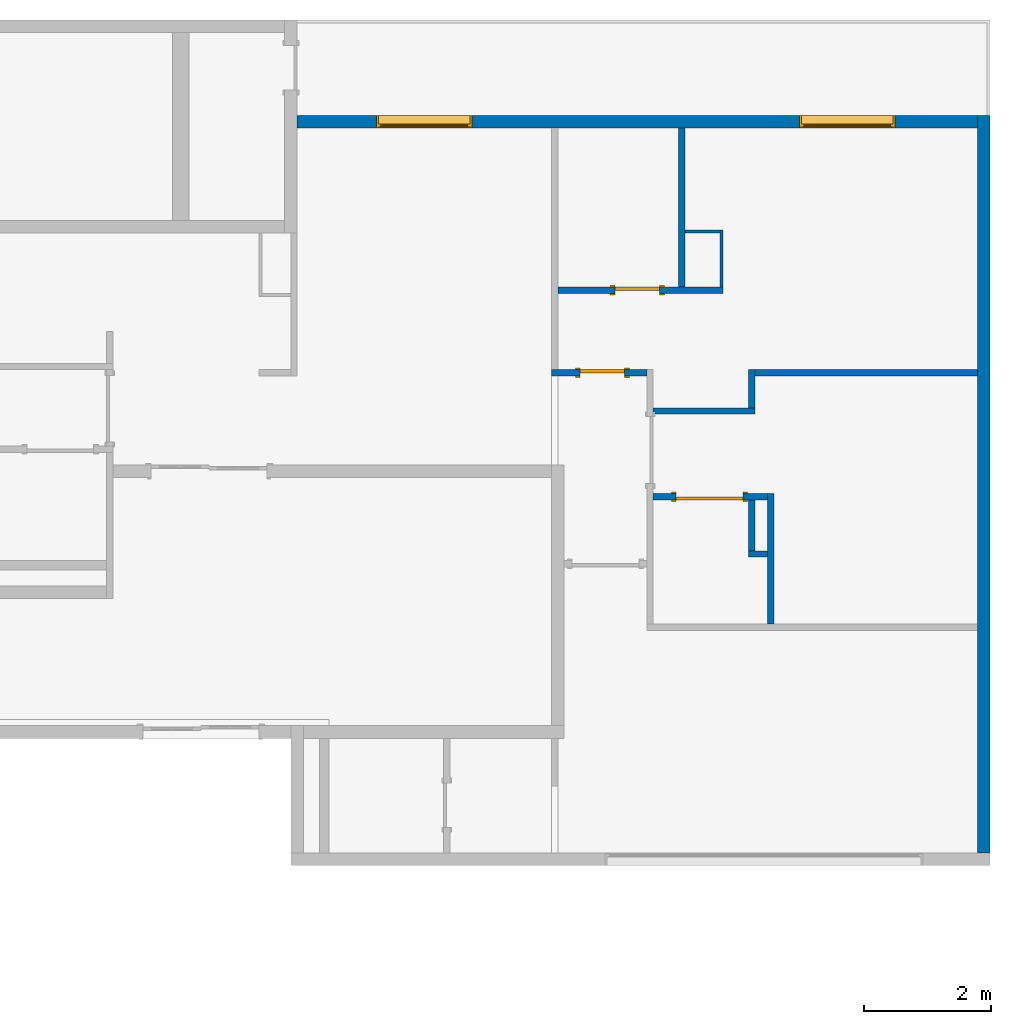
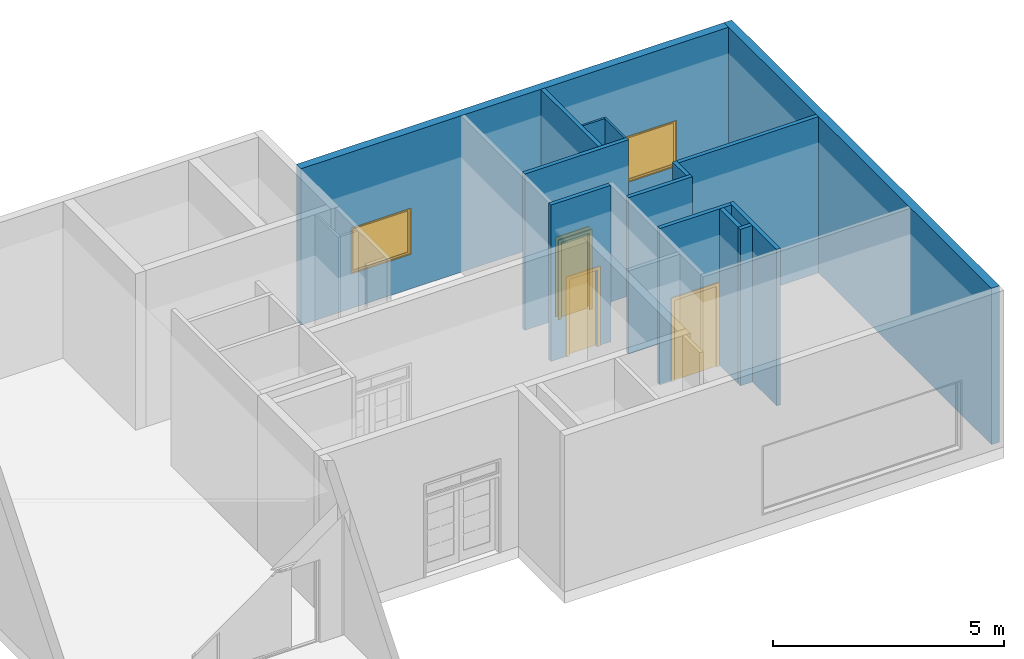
# One storey, part 6 of 8: 14 walls, 3 doors, 2 windows, 5 openings.
"""IFC2X3 building model written with IfcOpenShell, lengths in metres."""

from ifc_helpers import new_model, entity, si_unit, converted_unit, derived_unit, direction, frame, frame_2d, origin, origin_2d_with_axis, place, context, subcontext, project, spatial, polyline, rectangle, outline, extrude, clip, bounded_halfspace, source, transform, mapped, material, material_list, layer, layer_set, layer_usage, type_object, type_shapes, element, fill, save


model = new_model("IFC2X3")

# Units and contexts
model_context = context("Model", 3, precision=1e-05, world=origin(), true_north=direction((6.123031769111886e-17, 1.0)))
body_context = subcontext(model_context, "Body", "Model", "MODEL_VIEW")
ifc_project = project(units=[si_unit("LENGTHUNIT", "METRE"), si_unit("AREAUNIT", "SQUARE_METRE"), si_unit("VOLUMEUNIT", "CUBIC_METRE"), converted_unit("PLANEANGLEUNIT", "DEGREE", entity("IfcRatioMeasure", 0.017453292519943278), si_unit("PLANEANGLEUNIT", "RADIAN"), dimensions=[0, 0, 0, 0, 0, 0, 0]), si_unit("MASSUNIT", "GRAM", prefix="KILO"), derived_unit("MASSDENSITYUNIT", [(si_unit("MASSUNIT", "GRAM", prefix="KILO"), 1), (si_unit("LENGTHUNIT", "METRE"), -3)]), derived_unit("MOMENTOFINERTIAUNIT", [(si_unit("LENGTHUNIT", "METRE"), 4)]), si_unit("TIMEUNIT", "SECOND"), si_unit("FREQUENCYUNIT", "HERTZ"), si_unit("THERMODYNAMICTEMPERATUREUNIT", "DEGREE_CELSIUS"), derived_unit("THERMALTRANSMITTANCEUNIT", [(si_unit("MASSUNIT", "GRAM", prefix="KILO"), 1), (si_unit("THERMODYNAMICTEMPERATUREUNIT", "KELVIN"), -1), (si_unit("TIMEUNIT", "SECOND"), -3)]), derived_unit("VOLUMETRICFLOWRATEUNIT", [(si_unit("LENGTHUNIT", "METRE"), 3), (si_unit("TIMEUNIT", "SECOND"), -1)]), derived_unit("MASSFLOWRATEUNIT", [(si_unit("MASSUNIT", "GRAM", prefix="KILO"), 1), (si_unit("TIMEUNIT", "SECOND"), -1)]), derived_unit("ROTATIONALFREQUENCYUNIT", [(si_unit("TIMEUNIT", "SECOND"), -1)]), si_unit("ELECTRICCURRENTUNIT", "AMPERE"), si_unit("ELECTRICVOLTAGEUNIT", "VOLT"), si_unit("POWERUNIT", "WATT"), si_unit("FORCEUNIT", "NEWTON", prefix="KILO"), si_unit("ILLUMINANCEUNIT", "LUX"), si_unit("LUMINOUSFLUXUNIT", "LUMEN"), si_unit("LUMINOUSINTENSITYUNIT", "CANDELA"), derived_unit("USERDEFINED", [(si_unit("MASSUNIT", "GRAM", prefix="KILO"), -1), (si_unit("LENGTHUNIT", "METRE"), -2), (si_unit("TIMEUNIT", "SECOND"), 3), (si_unit("LUMINOUSFLUXUNIT", "LUMEN"), 1)]), derived_unit("SOUNDPOWERUNIT", [(si_unit("MASSUNIT", "GRAM", prefix="KILO"), 1), (si_unit("LENGTHUNIT", "METRE"), 2), (si_unit("TIMEUNIT", "SECOND"), -3)]), derived_unit("SOUNDPRESSUREUNIT", [(si_unit("MASSUNIT", "GRAM", prefix="KILO"), 1), (si_unit("LENGTHUNIT", "METRE"), -1), (si_unit("TIMEUNIT", "SECOND"), -2)]), derived_unit("LINEARVELOCITYUNIT", [(si_unit("LENGTHUNIT", "METRE"), 1), (si_unit("TIMEUNIT", "SECOND"), -1)]), si_unit("PRESSUREUNIT", "PASCAL"), derived_unit("USERDEFINED", [(si_unit("LENGTHUNIT", "METRE"), -2), (si_unit("MASSUNIT", "GRAM", prefix="KILO"), 1), (si_unit("TIMEUNIT", "SECOND"), -2)]), derived_unit("LINEARFORCEUNIT", [(si_unit("MASSUNIT", "GRAM", prefix="KILO"), 1), (si_unit("LENGTHUNIT", "METRE"), 1), (si_unit("TIMEUNIT", "SECOND"), -2), (si_unit("LENGTHUNIT", "METRE"), -1)]), derived_unit("PLANARFORCEUNIT", [(si_unit("MASSUNIT", "GRAM", prefix="KILO"), 1), (si_unit("LENGTHUNIT", "METRE"), 1), (si_unit("TIMEUNIT", "SECOND"), -2), (si_unit("LENGTHUNIT", "METRE"), -2)])], contexts=[model_context])

# Site, building, storey
site_placement = place(None, origin())
site = spatial("IfcSite", under=ifc_project, at=site_placement, Name="Default", CompositionType="ELEMENT")
building_placement = place(site_placement, origin())
building = spatial("IfcBuilding", under=site, at=building_placement, CompositionType="ELEMENT")
storey_placement = place(building_placement, frame((0.0, 0.0, 1.1999999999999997)))
storey = spatial("IfcBuildingStorey", under=building, at=storey_placement, Name="G0", CompositionType="ELEMENT", Elevation=1.1999999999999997)

# Wall
ifc_material_1 = material(Name="Masonry - Concrete Block")
ifc_layer_1 = layer(ifc_material_1, 0.2)
ifc_layer_set_1 = layer_set([ifc_layer_1], Name="Basic Wall:CW 200")
ifc_layer_usage_1 = layer_usage(ifc_layer_set_1, "AXIS2", "NEGATIVE", 0.1)
wall_type_1 = type_object("IfcWallType", Name="Basic Wall:CW 200", PredefinedType="STANDARD", material=ifc_layer_set_1)
wall_1_placement = place(storey_placement, frame((28.807683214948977, -7.102309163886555, 0.0), z_axis=(0.0, 0.0, 1.0), x_axis=(0.0, 1.0, 0.0)))
element("IfcWallStandardCase", 1, at=wall_1_placement, inside=storey, type_object=wall_type_1, material=ifc_layer_usage_1, Name="Basic Wall:CW 200", ObjectType="Basic Wall:CW 200", context=body_context, shape_type="Clipping", body=[
    clip(extrude(rectangle(XDim=11.599999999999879, YDim=0.19999999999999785, at=frame_2d((5.799999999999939, -1.457167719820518e-16), x_axis=(-1.0, 0.0))), origin(), (0.0, 0.0, 1.0), 4.139999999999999), bounded_halfspace(frame((0.0, -0.10000000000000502, 4.139999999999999), z_axis=(0.0, 0.0, -1.0), x_axis=(1.0, 0.0, 0.0)), True, frame((0.0, -0.10000000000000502, 4.139999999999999)), polyline([(0.0, 0.0), (0.0014984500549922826, 0.0), (0.0014984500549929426, 0.060960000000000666), (0.0, 0.060960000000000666), (0.0, 0.0)]))),
])

# Wall, openings, windows
ifc_layer_usage_2 = layer_usage(ifc_layer_set_1, "AXIS2", "NEGATIVE", 0.1)
wall_2_placement = place(storey_placement, frame((28.707683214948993, 4.397690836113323, 0.0), z_axis=(0.0, 0.0, 1.0), x_axis=(-1.0, 0.0, 0.0)))
wall_2 = element("IfcWallStandardCase", 2, at=wall_2_placement, inside=storey, type_object=wall_type_1, material=ifc_layer_usage_2, Name="Basic Wall:CW 200", ObjectType="Basic Wall:CW 200", context=body_context, shape_type="SweptSolid", body=[
    extrude(rectangle(XDim=10.699999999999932, YDim=0.2, at=frame_2d((5.349999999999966, -3.191891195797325e-16), x_axis=(-1.0, 0.0))), origin(), (0.0, 0.0, 1.0), 4.139999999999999),
])
opening_1_placement = place(wall_2_placement, frame((7.949999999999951, -0.10000000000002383, 0.9150000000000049)))
opening_1 = element("IfcOpeningElement", 3, at=opening_1_placement, cuts=wall_2, Name="M_Fixed:0915 x 1220mm:1", ObjectType="Opening", context=body_context, shape_type="SweptSolid", body=[
    extrude(rectangle(XDim=1.2199999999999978, YDim=1.4999999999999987, at=frame_2d((0.6099999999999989, 0.7499999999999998), x_axis=(1.0, 0.0))), frame((0.0, 0.0, 0.0), z_axis=(0.0, 1.0, 0.0), x_axis=(0.0, 0.0, 1.0)), (0.0, 0.0, 1.0), 0.2),
])
opening_2_placement = place(wall_2_placement, frame((1.3000000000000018, -0.10000000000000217, 0.9150000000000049)))
opening_2 = element("IfcOpeningElement", 4, at=opening_2_placement, cuts=wall_2, Name="M_Fixed:0915 x 1220mm:1", ObjectType="Opening", context=body_context, shape_type="SweptSolid", body=[
    extrude(rectangle(XDim=1.2199999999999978, YDim=1.4999999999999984, at=frame_2d((0.6099999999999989, 0.7499999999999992), x_axis=(1.0, 0.0))), frame((0.0, 0.0, 0.0), z_axis=(0.0, 1.0, 0.0), x_axis=(0.0, 0.0, 1.0)), (0.0, 0.0, 1.0), 0.2),
])
ifc_material_2 = material(Name="Glass")
ifc_material_3 = material(Name="Sash")
ifc_material_list_1 = material_list([ifc_material_2, ifc_material_3])
ifc_material_list_2 = material_list([ifc_material_2, ifc_material_3, ifc_material_3, ifc_material_3])
window_style = type_object("IfcWindowStyle", Name="M_Fixed:0915 x 1220mm", ConstructionType="NOTDEFINED", OperationType="NOTDEFINED", ParameterTakesPrecedence=False, Sizeable=False, material=ifc_material_list_2)
shared_shape_1 = source(origin(), body_context, "Body", "SweptSolid", [
    extrude(rectangle(XDim=0.011999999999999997, YDim=1.3739999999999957, at=frame_2d((8.239936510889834e-18, 0.0), x_axis=(1.0, 0.0))), frame((0.7500000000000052, 0.15899999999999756, 0.06299999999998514), z_axis=(0.0, 0.0, 1.0), x_axis=(0.0, -1.0, 0.0)), (0.0, 0.0, 1.0), 1.0940000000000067),
    extrude(outline(polyline([(-0.7309999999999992, -0.5910000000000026), (0.7309999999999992, -0.5910000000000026), (0.7309999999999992, 0.5910000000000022), (-0.7309999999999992, 0.5910000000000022), (-0.7309999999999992, -0.5910000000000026)]), holes=[polyline([(-0.686999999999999, -0.5470000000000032), (-0.686999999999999, 0.5470000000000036), (0.6869999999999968, 0.5470000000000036), (0.6869999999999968, -0.5470000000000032), (-0.686999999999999, -0.5470000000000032)])]), frame((0.7500000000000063, 0.13699999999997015, 0.6099999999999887), z_axis=(0.0, 1.0, 0.0), x_axis=(1.0, 0.0, 0.0)), (0.0, 0.0, 1.0), 0.04400000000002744),
    extrude(outline(polyline([(-0.749999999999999, -0.609999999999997), (0.749999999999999, -0.609999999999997), (0.749999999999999, 0.609999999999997), (-0.749999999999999, 0.609999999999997), (-0.749999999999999, -0.609999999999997)]), holes=[polyline([(-0.7310000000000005, -0.5909999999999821), (-0.7310000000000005, 0.5910000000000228), (0.7309999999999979, 0.5910000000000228), (0.7309999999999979, -0.5909999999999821), (-0.7310000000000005, -0.5909999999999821)])]), frame((0.7500000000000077, 0.13699999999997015, 0.6100000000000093), z_axis=(0.0, 1.0, 0.0), x_axis=(1.0, 0.0, 0.0)), (0.0, 0.0, 1.0), 0.06300000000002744),
    extrude(outline(polyline([(-0.7499999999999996, -0.6099999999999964), (0.7499999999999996, -0.6099999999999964), (0.7499999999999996, 0.6099999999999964), (-0.7499999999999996, 0.6099999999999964), (-0.7499999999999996, -0.6099999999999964)]), holes=[polyline([(-0.7179999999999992, -0.5779999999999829), (-0.7179999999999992, 0.5780000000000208), (0.7179999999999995, 0.5780000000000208), (0.7179999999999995, -0.5779999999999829), (-0.7179999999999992, -0.5779999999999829)])]), frame((0.750000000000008, 0.0, 0.6100000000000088), z_axis=(0.0, 1.0, 0.0), x_axis=(1.0, 0.0, 0.0)), (0.0, 0.0, 1.0), 0.1369999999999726),
])
type_shapes(window_style, [shared_shape_1])
window_1_placement = place(opening_1_placement, origin())
window_1 = element("IfcWindow", 5, at=window_1_placement, inside=storey, type_object=window_style, material=ifc_material_list_1, Name="M_Fixed:0915 x 1220mm", ObjectType="M_Fixed:0915 x 1220mm", OverallHeight=1.2199999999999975, OverallWidth=1.500000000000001, context=body_context, shape_type="MappedRepresentation", body=[
    mapped(shared_shape_1, transform((0.0, 0.0, 0.0), scale=1.0)),
])
fill(opening_1, window_1)
ifc_material_list_3 = material_list([ifc_material_2, ifc_material_3])
window_2_placement = place(opening_2_placement, origin())
window_2 = element("IfcWindow", 6, at=window_2_placement, inside=storey, type_object=window_style, material=ifc_material_list_3, Name="M_Fixed:0915 x 1220mm", ObjectType="M_Fixed:0915 x 1220mm", OverallHeight=1.2199999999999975, OverallWidth=1.499999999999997, context=body_context, shape_type="MappedRepresentation", body=[
    mapped(shared_shape_1, transform((0.0, 0.0, 0.0), scale=1.0)),
])
fill(opening_2, window_2)

# Wall, opening, door
ifc_layer_2 = layer(ifc_material_1, 0.1)
ifc_layer_set_2 = layer_set([ifc_layer_2], Name="Basic Wall:CW 100")
ifc_layer_usage_3 = layer_usage(ifc_layer_set_2, "AXIS2", "NEGATIVE", 0.05)
wall_type_2 = type_object("IfcWallType", Name="Basic Wall:CW 100", PredefinedType="STANDARD", material=ifc_layer_set_2)
wall_3_placement = place(storey_placement, frame((23.507683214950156, 0.4476908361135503, 0.0), z_axis=(0.0, 0.0, 1.0), x_axis=(-1.0, 0.0, 0.0)))
wall_3 = element("IfcWallStandardCase", 7, at=wall_3_placement, inside=storey, type_object=wall_type_2, material=ifc_layer_usage_3, Name="Basic Wall:CW 100", ObjectType="Basic Wall:CW 100", context=body_context, shape_type="SweptSolid", body=[
    extrude(rectangle(XDim=1.5000000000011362, YDim=0.09999999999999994, at=frame_2d((0.750000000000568, 6.938893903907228e-17), x_axis=(1.0, 0.0))), origin(), (0.0, 0.0, 1.0), 4.139999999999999),
])
opening_3_placement = place(wall_3_placement, frame((1.0500000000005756, 0.04999999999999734, 0.0)))
opening_3 = element("IfcOpeningElement", 8, at=opening_3_placement, cuts=wall_3, Name="M_Single-Flush:0762 x 2032mm:1", ObjectType="Opening", context=body_context, shape_type="SweptSolid", body=[
    extrude(rectangle(XDim=0.6999999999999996, YDim=2.0319999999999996, at=frame_2d((1.0160000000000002, 0.3499999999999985), x_axis=(0.0, 1.0))), frame((0.0, 0.0, 0.0), z_axis=(0.0, -1.0, 0.0), x_axis=(0.0, 0.0, 1.0)), (0.0, 0.0, 1.0), 0.1),
])
ifc_material_4 = material(Name="Door - Frame")
ifc_material_5 = material(Name="Door - Panel")
ifc_material_list_4 = material_list([ifc_material_4, ifc_material_5])
ifc_material_list_5 = material_list([ifc_material_4, ifc_material_4, ifc_material_5])
door_style_1 = type_object("IfcDoorStyle", Name="M_Single-Flush:0762 x 2032mm", ConstructionType="NOTDEFINED", OperationType="NOTDEFINED", ParameterTakesPrecedence=False, Sizeable=False, material=ifc_material_list_5)
shared_shape_2 = source(origin(), body_context, "Body", "SweptSolid", [
    extrude(outline(polyline([(-0.426, -1.0729999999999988), (0.4259999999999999, -1.0729999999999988), (0.4259999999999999, 1.0350000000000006), (0.3499999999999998, 1.0350000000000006), (0.3499999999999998, -0.9970000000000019), (-0.3499999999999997, -0.9970000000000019), (-0.3499999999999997, 1.0350000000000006), (-0.426, 1.0350000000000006), (-0.426, -1.0729999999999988)])), frame((0.3500000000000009, 0.10000000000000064, 1.0350000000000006), z_axis=(0.0, 1.0, 0.0), x_axis=(1.0, 0.0, 0.0)), (0.0, 0.0, 1.0), 0.024999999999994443),
    extrude(outline(polyline([(-1.0729999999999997, -0.42599999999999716), (1.0349999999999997, -0.42599999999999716), (1.0349999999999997, -0.3500000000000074), (-0.9969999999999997, -0.3500000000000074), (-0.9969999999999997, 0.35000000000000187), (1.0349999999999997, 0.35000000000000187), (1.0349999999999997, 0.4260000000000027), (-1.0729999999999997, 0.4260000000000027), (-1.0729999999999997, -0.42599999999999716)])), frame((0.35000000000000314, -0.025000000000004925, 1.0349999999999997), z_axis=(0.0, 1.0, 0.0), x_axis=(0.0, 0.0, -1.0)), (0.0, 0.0, 1.0), 0.025000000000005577),
    extrude(rectangle(XDim=0.051000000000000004, YDim=0.6999999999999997, at=origin_2d_with_axis()), frame((0.3500000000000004, 0.07450000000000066, 0.0), z_axis=(0.0, 0.0, 1.0), x_axis=(0.0, 1.0, 0.0)), (0.0, 0.0, 1.0), 2.0319999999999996),
])
type_shapes(door_style_1, [shared_shape_2])
door_1_placement = place(opening_3_placement, frame((0.0, 0.0, 0.0), z_axis=(0.0, 0.0, 1.0), x_axis=(-1.0, 0.0, 0.0)))
door_1 = element("IfcDoor", 9, at=door_1_placement, inside=storey, type_object=door_style_1, material=ifc_material_list_4, Name="M_Single-Flush:0762 x 2032mm", ObjectType="M_Single-Flush:0762 x 2032mm", OverallHeight=2.0319999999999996, OverallWidth=0.7000000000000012, context=body_context, shape_type="MappedRepresentation", body=[
    mapped(shared_shape_2, transform((0.0, 0.0, 0.0), scale=1.0)),
])
fill(opening_3, door_1)

ifc_layer_usage_4 = layer_usage(ifc_layer_set_2, "AXIS2", "NEGATIVE", 0.05)
wall_4_placement = place(storey_placement, frame((22.107683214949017, 1.747690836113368, 0.0)))
wall_4 = element("IfcWallStandardCase", 10, at=wall_4_placement, inside=storey, type_object=wall_type_2, material=ifc_layer_usage_4, Name="Basic Wall:CW 100", ObjectType="Basic Wall:CW 100", context=body_context, shape_type="SweptSolid", body=[
    extrude(rectangle(XDim=2.6000000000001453, YDim=0.1, at=frame_2d((1.3000000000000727, -1.734723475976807e-17), x_axis=(1.0, 0.0))), origin(), (0.0, 0.0, 1.0), 4.139999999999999),
])
opening_4_placement = place(wall_4_placement, frame((0.9000000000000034, -0.05000000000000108, 0.0)))
opening_4 = element("IfcOpeningElement", 11, at=opening_4_placement, cuts=wall_4, Name="M_Single-Flush:0762 x 2032mm:1", ObjectType="Opening", context=body_context, shape_type="SweptSolid", body=[
    extrude(rectangle(XDim=0.6999999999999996, YDim=2.0319999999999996, at=frame_2d((1.0160000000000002, 0.3499999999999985), x_axis=(0.0, 1.0))), frame((0.0, 0.0, 0.0), z_axis=(0.0, 1.0, 0.0), x_axis=(0.0, 0.0, 1.0)), (0.0, 0.0, 1.0), 0.1),
])
ifc_material_list_6 = material_list([ifc_material_4, ifc_material_5])
door_2_placement = place(opening_4_placement, origin())
door_2 = element("IfcDoor", 12, at=door_2_placement, inside=storey, type_object=door_style_1, material=ifc_material_list_6, Name="M_Single-Flush:0762 x 2032mm", ObjectType="M_Single-Flush:0762 x 2032mm", OverallHeight=2.0319999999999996, OverallWidth=0.7000000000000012, context=body_context, shape_type="MappedRepresentation", body=[
    mapped(shared_shape_2, transform((0.0, 0.0, 0.0), scale=1.0)),
])
fill(opening_4, door_2)

# Walls
ifc_layer_usage_5 = layer_usage(ifc_layer_set_2, "AXIS2", "NEGATIVE", 0.05)
wall_5_placement = place(storey_placement, frame((24.057683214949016, 1.7976908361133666, 0.0), z_axis=(0.0, 0.0, 1.0), x_axis=(0.0, 1.0, 0.0)))
element("IfcWallStandardCase", 13, at=wall_5_placement, inside=storey, type_object=wall_type_2, material=ifc_layer_usage_5, Name="Basic Wall:CW 100", ObjectType="Basic Wall:CW 100", context=body_context, shape_type="SweptSolid", body=[
    extrude(rectangle(XDim=2.4999999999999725, YDim=0.10000000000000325, at=frame_2d((1.2499999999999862, -8.326672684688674e-17), x_axis=(-1.0, 0.0))), origin(), (0.0, 0.0, 1.0), 4.139999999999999),
])
ifc_layer_usage_6 = layer_usage(ifc_layer_set_2, "AXIS2", "NEGATIVE", 0.05)
wall_6_placement = place(storey_placement, frame((23.607683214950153, -0.15230916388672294, 0.0)))
element("IfcWallStandardCase", 14, at=wall_6_placement, inside=storey, type_object=wall_type_2, material=ifc_layer_usage_6, Name="Basic Wall:CW 100", ObjectType="Basic Wall:CW 100", context=body_context, shape_type="SweptSolid", body=[
    extrude(rectangle(XDim=1.599999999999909, YDim=0.1, at=frame_2d((0.7999999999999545, 0.0), x_axis=(-1.0, 0.0))), origin(), (0.0, 0.0, 1.0), 4.139999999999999),
])
ifc_layer_usage_7 = layer_usage(ifc_layer_set_2, "AXIS2", "NEGATIVE", 0.05)
wall_7_placement = place(storey_placement, frame((25.157683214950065, -0.10230916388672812, 0.0), z_axis=(0.0, 0.0, 1.0), x_axis=(0.0, 1.0, 0.0)))
element("IfcWallStandardCase", 15, at=wall_7_placement, inside=storey, type_object=wall_type_2, material=ifc_layer_usage_7, Name="Basic Wall:CW 100", ObjectType="Basic Wall:CW 100", context=body_context, shape_type="SweptSolid", body=[
    extrude(rectangle(XDim=0.6000000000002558, YDim=0.10000000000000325, at=frame_2d((0.3000000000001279, 0.0), x_axis=(-1.0, 0.0))), origin(), (0.0, 0.0, 1.0), 4.139999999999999),
])
ifc_layer_usage_8 = layer_usage(ifc_layer_set_2, "AXIS2", "NEGATIVE", 0.05)
wall_8_placement = place(storey_placement, frame((25.207683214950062, 0.4476908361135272, 0.0)))
element("IfcWallStandardCase", 16, at=wall_8_placement, inside=storey, type_object=wall_type_2, material=ifc_layer_usage_8, Name="Basic Wall:CW 100", ObjectType="Basic Wall:CW 100", context=body_context, shape_type="SweptSolid", body=[
    extrude(rectangle(XDim=3.499999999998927, YDim=0.1, at=frame_2d((1.7499999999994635, 0.0), x_axis=(-1.0, 0.0))), origin(), (0.0, 0.0, 1.0), 4.139999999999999),
])
ifc_layer_usage_9 = layer_usage(ifc_layer_set_2, "AXIS2", "NEGATIVE", 0.05)
wall_9_placement = place(storey_placement, frame((25.457683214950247, -3.5023091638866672, 0.0), z_axis=(0.0, 0.0, 1.0), x_axis=(0.0, 1.0, 0.0)))
element("IfcWallStandardCase", 17, at=wall_9_placement, inside=storey, type_object=wall_type_2, material=ifc_layer_usage_9, Name="Basic Wall:CW 100", ObjectType="Basic Wall:CW 100", context=body_context, shape_type="SweptSolid", body=[
    extrude(rectangle(XDim=2.0499999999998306, YDim=0.10000000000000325, at=frame_2d((1.0249999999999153, 0.0), x_axis=(-1.0, 0.0))), origin(), (0.0, 0.0, 1.0), 4.139999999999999),
])

# Wall, opening, door
ifc_layer_usage_10 = layer_usage(ifc_layer_set_2, "AXIS2", "NEGATIVE", 0.05)
wall_10_placement = place(storey_placement, frame((25.40768321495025, -1.502309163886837, 0.0), z_axis=(0.0, 0.0, 1.0), x_axis=(-1.0, 0.0, 0.0)))
wall_10 = element("IfcWallStandardCase", 18, at=wall_10_placement, inside=storey, type_object=wall_type_2, material=ifc_layer_usage_10, Name="Basic Wall:CW 100", ObjectType="Basic Wall:CW 100", context=body_context, shape_type="SweptSolid", body=[
    extrude(rectangle(XDim=1.8000000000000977, YDim=0.10000000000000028, at=frame_2d((0.900000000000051, -1.6306400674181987e-16), x_axis=(1.0, 0.0))), origin(), (0.0, 0.0, 1.0), 4.14),
])
opening_5_placement = place(wall_10_placement, frame((0.3900000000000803, -0.05000000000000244, 0.0)))
opening_5 = element("IfcOpeningElement", 19, at=opening_5_placement, cuts=wall_10, Name="M_Single-Flush:0915 x 2134mm:1", ObjectType="Opening", context=body_context, shape_type="SweptSolid", body=[
    extrude(rectangle(XDim=1.0499999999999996, YDim=2.1339999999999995, at=frame_2d((1.0670000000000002, 0.5249999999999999), x_axis=(0.0, 1.0))), frame((0.0, 0.0, 0.0), z_axis=(0.0, 1.0, 0.0), x_axis=(0.0, 0.0, 1.0)), (0.0, 0.0, 1.0), 0.1),
])
ifc_material_list_7 = material_list([ifc_material_4, ifc_material_5])
ifc_material_list_8 = material_list([ifc_material_4, ifc_material_4, ifc_material_5])
door_style_2 = type_object("IfcDoorStyle", Name="M_Single-Flush:0915 x 2134mm", ConstructionType="NOTDEFINED", OperationType="NOTDEFINED", ParameterTakesPrecedence=False, Sizeable=False, material=ifc_material_list_8)
shared_shape_3 = source(origin(), body_context, "Body", "SweptSolid", [
    extrude(outline(polyline([(-0.601, -1.123999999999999), (0.6009999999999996, -1.123999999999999), (0.6009999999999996, 1.0860000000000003), (0.5250000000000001, 1.0860000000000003), (0.5250000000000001, -1.0480000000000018), (-0.5249999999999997, -1.0480000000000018), (-0.5249999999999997, 1.0860000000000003), (-0.601, 1.0860000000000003), (-0.601, -1.123999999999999)])), frame((0.5250000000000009, 0.10000000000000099, 1.0860000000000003), z_axis=(0.0, 1.0, 0.0), x_axis=(1.0, 0.0, 0.0)), (0.0, 0.0, 1.0), 0.024999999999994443),
    extrude(outline(polyline([(-1.1239999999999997, -0.6009999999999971), (1.0859999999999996, -0.6009999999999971), (1.0859999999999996, -0.5250000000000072), (-1.0479999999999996, -0.5250000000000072), (-1.0479999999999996, 0.5250000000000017), (1.0859999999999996, 0.5250000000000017), (1.0859999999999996, 0.6010000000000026), (-1.1239999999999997, 0.6010000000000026), (-1.1239999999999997, -0.6009999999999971)])), frame((0.525000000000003, -0.025000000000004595, 1.0859999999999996), z_axis=(0.0, 1.0, 0.0), x_axis=(0.0, 0.0, -1.0)), (0.0, 0.0, 1.0), 0.02500000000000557),
    extrude(rectangle(XDim=0.051000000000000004, YDim=1.0499999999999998, at=origin_2d_with_axis()), frame((0.5250000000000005, 0.07450000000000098, 0.0), z_axis=(0.0, 0.0, 1.0), x_axis=(0.0, 1.0, 0.0)), (0.0, 0.0, 1.0), 2.133999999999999),
])
type_shapes(door_style_2, [shared_shape_3])
door_3_placement = place(opening_5_placement, origin())
door_3 = element("IfcDoor", 20, at=door_3_placement, inside=storey, type_object=door_style_2, material=ifc_material_list_7, Name="M_Single-Flush:0915 x 2134mm", ObjectType="M_Single-Flush:0915 x 2134mm", OverallHeight=2.134, OverallWidth=1.0499999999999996, context=body_context, shape_type="MappedRepresentation", body=[
    mapped(shared_shape_3, transform((0.0, 0.0, 0.0), scale=1.0)),
])
fill(opening_5, door_3)

# Walls
ifc_layer_usage_11 = layer_usage(ifc_layer_set_2, "AXIS2", "NEGATIVE", 0.05)
wall_11_placement = place(storey_placement, frame((25.40768321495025, -2.4023091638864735, 0.0), z_axis=(0.0, 0.0, 1.0), x_axis=(-1.0, 0.0, 0.0)))
element("IfcWallStandardCase", 21, at=wall_11_placement, inside=storey, type_object=wall_type_2, material=ifc_layer_usage_11, Name="Basic Wall:CW 100", ObjectType="Basic Wall:CW 100", context=body_context, shape_type="SweptSolid", body=[
    extrude(rectangle(XDim=0.30000000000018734, YDim=0.10000000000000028, at=frame_2d((0.15000000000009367, 1.3530843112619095e-16), x_axis=(-1.0, 0.0))), origin(), (0.0, 0.0, 1.0), 4.139999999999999),
])
ifc_layer_usage_12 = layer_usage(ifc_layer_set_2, "AXIS2", "NEGATIVE", 0.05)
wall_12_placement = place(storey_placement, frame((25.157683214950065, -2.352309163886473, 0.0), z_axis=(0.0, 0.0, 1.0), x_axis=(0.0, 1.0, 0.0)))
element("IfcWallStandardCase", 22, at=wall_12_placement, inside=storey, type_object=wall_type_2, material=ifc_layer_usage_12, Name="Basic Wall:CW 100", ObjectType="Basic Wall:CW 100", context=body_context, shape_type="SweptSolid", body=[
    extrude(rectangle(XDim=0.799999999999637, YDim=0.10000000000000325, at=frame_2d((0.3999999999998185, 0.0), x_axis=(-1.0, 0.0))), origin(), (0.0, 0.0, 1.0), 4.139999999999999),
])
ifc_layer_3 = layer(ifc_material_1, 0.05)
ifc_layer_set_3 = layer_set([ifc_layer_3], Name="Basic Wall:CW 50")
ifc_layer_usage_13 = layer_usage(ifc_layer_set_3, "AXIS2", "NEGATIVE", 0.025)
wall_type_3 = type_object("IfcWallType", Name="Basic Wall:CW 50", PredefinedType="STANDARD", material=ifc_layer_set_3)
wall_13_placement = place(storey_placement, frame((24.68268321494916, 1.7976908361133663, 0.0), z_axis=(0.0, 0.0, 1.0), x_axis=(0.0, 1.0, 0.0)))
element("IfcWallStandardCase", 23, at=wall_13_placement, inside=storey, type_object=wall_type_3, material=ifc_layer_usage_13, Name="Basic Wall:CW 50", ObjectType="Basic Wall:CW 50", context=body_context, shape_type="SweptSolid", body=[
    extrude(rectangle(XDim=0.8999999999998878, YDim=0.0499999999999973, at=frame_2d((0.4499999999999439, 0.0), x_axis=(-1.0, 0.0))), origin(), (0.0, 0.0, 1.0), 4.139999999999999),
])
ifc_layer_usage_14 = layer_usage(ifc_layer_set_3, "AXIS2", "NEGATIVE", 0.025)
wall_14_placement = place(storey_placement, frame((24.657683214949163, 2.6726908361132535, 0.0), z_axis=(0.0, 0.0, 1.0), x_axis=(-1.0, 0.0, 0.0)))
element("IfcWallStandardCase", 24, at=wall_14_placement, inside=storey, type_object=wall_type_3, material=ifc_layer_usage_14, Name="Basic Wall:CW 50", ObjectType="Basic Wall:CW 50", context=body_context, shape_type="SweptSolid", body=[
    extrude(rectangle(XDim=0.5500000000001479, YDim=0.04999999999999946, at=frame_2d((0.27500000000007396, -9.020562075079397e-17), x_axis=(-1.0, 0.0))), origin(), (0.0, 0.0, 1.0), 4.139999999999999),
])

save(model, "model.ifc")
